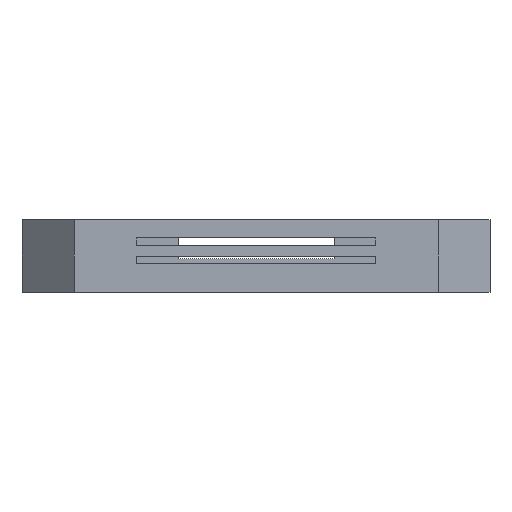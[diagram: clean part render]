
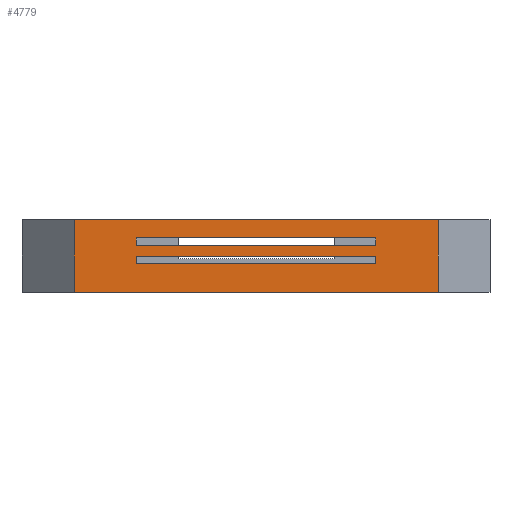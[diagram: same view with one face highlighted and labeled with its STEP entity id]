
A CAD part, front view. The second image highlights one B-rep face of the part: STEP entity #4779.
In plain terms, the highlighted planar face has unit normal (0, -1, 0).
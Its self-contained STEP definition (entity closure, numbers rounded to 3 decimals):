
#21 = EDGE_CURVE('',#22,#24,#26,.T.);
#22 = VERTEX_POINT('',#23);
#23 = CARTESIAN_POINT('',(-70.,-130.,85.781));
#24 = VERTEX_POINT('',#25);
#25 = CARTESIAN_POINT('',(70.,-130.,85.781));
#26 = LINE('',#27,#28);
#27 = CARTESIAN_POINT('',(-70.,-130.,85.781));
#28 = VECTOR('',#29,1.);
#29 = DIRECTION('',(1.,0.,0.));
#190 = EDGE_CURVE('',#191,#193,#195,.T.);
#191 = VERTEX_POINT('',#192);
#192 = CARTESIAN_POINT('',(-70.,-130.,57.781));
#193 = VERTEX_POINT('',#194);
#194 = CARTESIAN_POINT('',(70.,-130.,57.781));
#195 = LINE('',#196,#197);
#196 = CARTESIAN_POINT('',(-70.,-130.,57.781));
#197 = VECTOR('',#198,1.);
#198 = DIRECTION('',(1.,0.,0.));
#2555 = VERTEX_POINT('',#2556);
#2556 = CARTESIAN_POINT('',(-46.,-130.,78.781));
#2562 = EDGE_CURVE('',#2555,#2563,#2565,.T.);
#2563 = VERTEX_POINT('',#2564);
#2564 = CARTESIAN_POINT('',(46.,-130.,78.781));
#2565 = LINE('',#2566,#2567);
#2566 = CARTESIAN_POINT('',(-58.,-130.,78.781));
#2567 = VECTOR('',#2568,1.);
#2568 = DIRECTION('',(1.,0.,0.));
#2586 = EDGE_CURVE('',#2555,#2587,#2589,.T.);
#2587 = VERTEX_POINT('',#2588);
#2588 = CARTESIAN_POINT('',(-46.,-130.,75.781));
#2589 = LINE('',#2590,#2591);
#2590 = CARTESIAN_POINT('',(-46.,-130.,69.031));
#2591 = VECTOR('',#2592,1.);
#2592 = DIRECTION('',(0.,0.,-1.));
#2610 = EDGE_CURVE('',#2563,#2611,#2613,.T.);
#2611 = VERTEX_POINT('',#2612);
#2612 = CARTESIAN_POINT('',(46.,-130.,75.781));
#2613 = LINE('',#2614,#2615);
#2614 = CARTESIAN_POINT('',(46.,-130.,69.031));
#2615 = VECTOR('',#2616,1.);
#2616 = DIRECTION('',(0.,0.,-1.));
#2634 = EDGE_CURVE('',#2587,#2611,#2635,.T.);
#2635 = LINE('',#2636,#2637);
#2636 = CARTESIAN_POINT('',(-58.,-130.,75.781));
#2637 = VECTOR('',#2638,1.);
#2638 = DIRECTION('',(1.,0.,0.));
#2651 = VERTEX_POINT('',#2652);
#2652 = CARTESIAN_POINT('',(-46.,-130.,71.781));
#2658 = EDGE_CURVE('',#2651,#2659,#2661,.T.);
#2659 = VERTEX_POINT('',#2660);
#2660 = CARTESIAN_POINT('',(46.,-130.,71.781));
#2661 = LINE('',#2662,#2663);
#2662 = CARTESIAN_POINT('',(-58.,-130.,71.781));
#2663 = VECTOR('',#2664,1.);
#2664 = DIRECTION('',(1.,0.,0.));
#2682 = EDGE_CURVE('',#2651,#2683,#2685,.T.);
#2683 = VERTEX_POINT('',#2684);
#2684 = CARTESIAN_POINT('',(-46.,-130.,68.781));
#2685 = LINE('',#2686,#2687);
#2686 = CARTESIAN_POINT('',(-46.,-130.,65.531));
#2687 = VECTOR('',#2688,1.);
#2688 = DIRECTION('',(0.,0.,-1.));
#2706 = EDGE_CURVE('',#2659,#2707,#2709,.T.);
#2707 = VERTEX_POINT('',#2708);
#2708 = CARTESIAN_POINT('',(46.,-130.,68.781));
#2709 = LINE('',#2710,#2711);
#2710 = CARTESIAN_POINT('',(46.,-130.,65.531));
#2711 = VECTOR('',#2712,1.);
#2712 = DIRECTION('',(0.,0.,-1.));
#2730 = EDGE_CURVE('',#2683,#2707,#2731,.T.);
#2731 = LINE('',#2732,#2733);
#2732 = CARTESIAN_POINT('',(-58.,-130.,68.781));
#2733 = VECTOR('',#2734,1.);
#2734 = DIRECTION('',(1.,0.,0.));
#4779 = ADVANCED_FACE('',(#4780,#4796,#4802),#4808,.T.);
#4780 = FACE_BOUND('',#4781,.T.);
#4781 = EDGE_LOOP('',(#4782,#4783,#4789,#4790));
#4782 = ORIENTED_EDGE('',*,*,#190,.T.);
#4783 = ORIENTED_EDGE('',*,*,#4784,.T.);
#4784 = EDGE_CURVE('',#193,#24,#4785,.T.);
#4785 = LINE('',#4786,#4787);
#4786 = CARTESIAN_POINT('',(70.,-130.,57.781));
#4787 = VECTOR('',#4788,1.);
#4788 = DIRECTION('',(0.,0.,1.));
#4789 = ORIENTED_EDGE('',*,*,#21,.F.);
#4790 = ORIENTED_EDGE('',*,*,#4791,.F.);
#4791 = EDGE_CURVE('',#191,#22,#4792,.T.);
#4792 = LINE('',#4793,#4794);
#4793 = CARTESIAN_POINT('',(-70.,-130.,62.281));
#4794 = VECTOR('',#4795,1.);
#4795 = DIRECTION('',(0.,0.,1.));
#4796 = FACE_BOUND('',#4797,.T.);
#4797 = EDGE_LOOP('',(#4798,#4799,#4800,#4801));
#4798 = ORIENTED_EDGE('',*,*,#2562,.T.);
#4799 = ORIENTED_EDGE('',*,*,#2610,.T.);
#4800 = ORIENTED_EDGE('',*,*,#2634,.F.);
#4801 = ORIENTED_EDGE('',*,*,#2586,.F.);
#4802 = FACE_BOUND('',#4803,.T.);
#4803 = EDGE_LOOP('',(#4804,#4805,#4806,#4807));
#4804 = ORIENTED_EDGE('',*,*,#2658,.T.);
#4805 = ORIENTED_EDGE('',*,*,#2706,.T.);
#4806 = ORIENTED_EDGE('',*,*,#2730,.F.);
#4807 = ORIENTED_EDGE('',*,*,#2682,.F.);
#4808 = PLANE('',#4809);
#4809 = AXIS2_PLACEMENT_3D('',#4810,#4811,#4812);
#4810 = CARTESIAN_POINT('',(0.,-130.,71.781));
#4811 = DIRECTION('',(-0.,-1.,-0.));
#4812 = DIRECTION('',(0.,0.,-1.));
